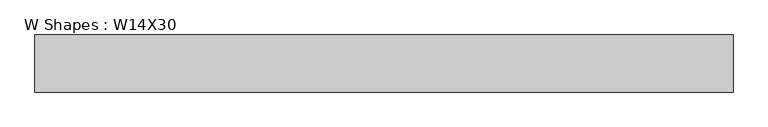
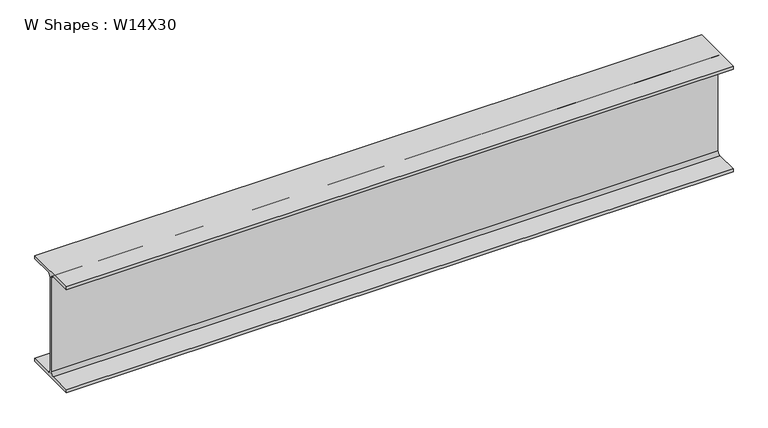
"""IFC4 building model written with IfcOpenShell, lengths in millimetres: beam geometry, W Shapes : W14X30."""

import ifcopenshell
import ifcopenshell.guid

model = None  # the IFC model being written
_history = None  # IfcOwnerHistory: only IFC2X3 demands one
_inside = {}  # id of a spatial element -> (the spatial element, [elements in it])
_under = {}  # id of a project, library or spatial element -> (it, [spatial elements below it])
_declared = {}  # id of a project -> (the project, [libraries it declares])
_typed = {}  # id of a type object -> (the type object, [elements of that type])
_made_of = {}  # id of a material, layer set ... -> (it, [elements and type objects made of it])


def new_model(schema):
    """Start an empty IFC model of exactly this schema.

    Asked for "IFC4X3", IfcOpenShell would pick the latest addendum, in which some entities
    have other attributes; the version numbers below select the first issue.
    IFC2X3 requires an IfcOwnerHistory on every rooted entity: one is made here for all.
    """
    global model, _history
    if schema == "IFC4X3":
        model = ifcopenshell.file(schema_version=(4, 3, 0, 0))
    else:
        model = ifcopenshell.file(schema=schema)
    _inside.clear()
    _under.clear()
    _declared.clear()
    _typed.clear()
    _made_of.clear()
    _history = None
    if model.schema == "IFC2X3":
        org = make("IfcOrganization", Name="unknown")
        user = make(
            "IfcPersonAndOrganization",
            ThePerson=make("IfcPerson", FamilyName="unknown"),
            TheOrganization=org,
        )
        app = make(
            "IfcApplication",
            ApplicationDeveloper=org,
            Version="unknown",
            ApplicationFullName="unknown",
            ApplicationIdentifier="unknown",
        )
        _history = make(
            "IfcOwnerHistory",
            OwningUser=user,
            OwningApplication=app,
            ChangeAction="ADDED",
            CreationDate=0,
        )
    return model


def make(cls, **values):
    """One entity of the class cls with the attributes given. An attribute that is None is left unset."""
    return model.create_entity(
        cls, **{name: value for name, value in values.items() if value is not None}
    )


def rooted(cls, **values):
    """An entity with a GlobalId (a new one), such as an element, a storey or a relation."""
    return make(cls, GlobalId=ifcopenshell.guid.new(), OwnerHistory=_history, **values)


def si_unit(unit_type, name, prefix=None):
    """IfcSIUnit, for example si_unit("LENGTHUNIT", "METRE", prefix="MILLI")."""
    return make("IfcSIUnit", UnitType=unit_type, Prefix=prefix, Name=name)


def assignment(units):
    """IfcUnitAssignment: the units of a project."""
    return None if units is None else make("IfcUnitAssignment", Units=units)


def point(xyz):
    """IfcCartesianPoint."""
    return None if xyz is None else make("IfcCartesianPoint", Coordinates=xyz)


def direction(xyz):
    """IfcDirection."""
    return None if xyz is None else make("IfcDirection", DirectionRatios=xyz)


def frame(location, z_axis=None, x_axis=None):
    """IfcAxis2Placement3D, a coordinate frame: its origin and axes. An axis left out is left unset."""
    return make(
        "IfcAxis2Placement3D",
        Location=point(location),
        Axis=direction(z_axis),
        RefDirection=direction(x_axis),
    )


def frame_2d(location, x_axis=None):
    """IfcAxis2Placement2D, a coordinate frame in the plane: its origin and x axis."""
    return make(
        "IfcAxis2Placement2D", Location=point(location), RefDirection=direction(x_axis)
    )


def origin():
    """The frame at (0, 0, 0) with its axes left unset."""
    return frame((0.0, 0.0, 0.0))


def place(relative_to, where):
    """IfcLocalPlacement: puts the frame where relative to a parent placement (None: the world)."""
    return make(
        "IfcLocalPlacement", PlacementRelTo=relative_to, RelativePlacement=where
    )


def context(
    kind, dimensions, precision=None, world=None, true_north=None, identifier=None
):
    """IfcGeometricRepresentationContext, for example the 3D "Model" context."""
    return make(
        "IfcGeometricRepresentationContext",
        ContextIdentifier=identifier,
        ContextType=kind,
        CoordinateSpaceDimension=dimensions,
        Precision=precision,
        WorldCoordinateSystem=world,
        TrueNorth=true_north,
    )


def project(units=None, contexts=None):
    """IfcProject with its units and contexts."""
    return rooted(
        "IfcProject",
        Name="project",
        RepresentationContexts=contexts,
        UnitsInContext=assignment(units),
    )


def spatial(cls, under=None, at=None, **own):
    """A site, building, storey or space (cls), placed at a placement, below another one or the project."""
    s = rooted(cls, ObjectPlacement=at, **own)
    if under is not None:
        _under.setdefault(under.id(), (under, []))[1].append(s)
    return s


def polyline(points):
    """IfcPolyline through the points."""
    return make("IfcPolyline", Points=[point(p) for p in points])


def circle_curve(where, radius):
    """IfcCircle in the frame where."""
    return make("IfcCircle", Position=where, Radius=radius)


def trimmed(basis, trim1, trim2, sense, master):
    """IfcTrimmedCurve: the piece of a basis curve between two trims."""
    return make(
        "IfcTrimmedCurve",
        BasisCurve=basis,
        Trim1=trim1,
        Trim2=trim2,
        SenseAgreement=sense,
        MasterRepresentation=master,
    )


def segment(curve, same_sense, transition):
    """IfcCompositeCurveSegment."""
    return make(
        "IfcCompositeCurveSegment",
        Transition=transition,
        SameSense=same_sense,
        ParentCurve=curve,
    )


def composite_curve(segments, self_intersect=None):
    """IfcCompositeCurve: segments joined end to end."""
    return make("IfcCompositeCurve", Segments=segments, SelfIntersect=self_intersect)


def outline(outer, holes=None, kind="AREA"):
    """IfcArbitraryClosedProfileDef: a profile drawn as a closed curve; with holes, ...WithVoids."""
    if holes is None:
        return make("IfcArbitraryClosedProfileDef", ProfileType=kind, OuterCurve=outer)
    return make(
        "IfcArbitraryProfileDefWithVoids",
        ProfileType=kind,
        OuterCurve=outer,
        InnerCurves=holes,
    )


def extrude(swept, where, along, depth):
    """IfcExtrudedAreaSolid: the profile swept, set in the frame where, extruded along a direction by depth."""
    return make(
        "IfcExtrudedAreaSolid",
        SweptArea=swept,
        Position=where,
        ExtrudedDirection=direction(along),
        Depth=depth,
    )


def shape(context_of_items, identifier, shape_type, items):
    """IfcShapeRepresentation: the items that make up one representation, for example the "Body"."""
    return make(
        "IfcShapeRepresentation",
        ContextOfItems=context_of_items,
        RepresentationIdentifier=identifier,
        RepresentationType=shape_type,
        Items=items,
    )


def source(mapping_origin, context_of_items, identifier, shape_type, items):
    """IfcRepresentationMap: a shape defined once, which mapped items show again and again."""
    return make(
        "IfcRepresentationMap",
        MappingOrigin=mapping_origin,
        MappedRepresentation=shape(context_of_items, identifier, shape_type, items),
    )


def transform(
    local_origin,
    x_axis=None,
    y_axis=None,
    z_axis=None,
    scale=None,
    scale2=None,
    scale3=None,
    uniform=True,
):
    """IfcCartesianTransformationOperator3D, or its non-uniform kind. x_axis, y_axis, z_axis: its Axis1, 2, 3."""
    if uniform:
        return make(
            "IfcCartesianTransformationOperator3D",
            Axis1=direction(x_axis),
            Axis2=direction(y_axis),
            LocalOrigin=point(local_origin),
            Scale=scale,
            Axis3=direction(z_axis),
        )
    return make(
        "IfcCartesianTransformationOperator3DnonUniform",
        Axis1=direction(x_axis),
        Axis2=direction(y_axis),
        LocalOrigin=point(local_origin),
        Scale=scale,
        Axis3=direction(z_axis),
        Scale2=scale2,
        Scale3=scale3,
    )


def mapped(mapping_source, mapping_target):
    """IfcMappedItem: shows the shape of a source again, moved by a transform."""
    return make(
        "IfcMappedItem", MappingSource=mapping_source, MappingTarget=mapping_target
    )


def made_of(thing, what):
    """Note that an element or type object is made of a material, layer set ...; save() writes the relation."""
    if what is not None:
        _made_of.setdefault(what.id(), (what, []))[1].append(thing)
    return thing


def element(
    cls,
    number,
    at=None,
    inside=None,
    cuts=None,
    type_object=None,
    material=None,
    context=None,
    identifier="Body",
    shape_type=None,
    held_by="IfcProductDefinitionShape",
    body=None,
    shapes=None,
    **own,
):
    """One element of the class cls, such as IfcWall. Its Tag is "e" and its number.

    at: its placement. inside: the storey or other place that contains it. cuts: it is an
    opening in that element (IfcRelVoidsElement). A single representation is given by context,
    identifier, shape_type and body (its items); several are given by shapes. held_by: the class
    of the entity that holds the representations. save() writes the other relations.
    """
    e = rooted(cls, Tag="e%d" % number, ObjectPlacement=at, **own)
    if body is not None:
        shapes = [shape(context, identifier, shape_type, body)]
    if shapes is not None:
        e.Representation = make(held_by, Representations=shapes)
    if inside is not None:
        _inside.setdefault(inside.id(), (inside, []))[1].append(e)
    if cuts is not None:
        rooted(
            "IfcRelVoidsElement", RelatingBuildingElement=cuts, RelatedOpeningElement=e
        )
    if type_object is not None:
        _typed.setdefault(type_object.id(), (type_object, []))[1].append(e)
    return made_of(e, material)


def aggregate(whole, parts):
    """IfcRelAggregates: a whole, such as a stair, and the parts it consists of."""
    return rooted("IfcRelAggregates", RelatingObject=whole, RelatedObjects=parts)


def save(model, path):
    """Write the relations noted so far, then the file.

    IfcRelAggregates (storeys below a building ...), IfcRelContainedInSpatialStructure (elements
    in a storey), IfcRelDefinesByType, IfcRelAssociatesMaterial and IfcRelDeclares: one each for
    every whole, place, type object, material and project.
    """
    for whole, parts in _under.values():
        aggregate(whole, parts)
    for where, things in _inside.values():
        rooted(
            "IfcRelContainedInSpatialStructure",
            RelatedElements=things,
            RelatingStructure=where,
        )
    for kind, things in _typed.values():
        rooted("IfcRelDefinesByType", RelatedObjects=things, RelatingType=kind)
    for what, things in _made_of.values():
        rooted("IfcRelAssociatesMaterial", RelatedObjects=things, RelatingMaterial=what)
    for by, libraries in _declared.values():
        rooted("IfcRelDeclares", RelatingContext=by, RelatedDefinitions=libraries)
    model.write(path)


def w_shapes_w14x30_97968d29(model_context):
    return source(origin(), model_context, "Body", "SweptSolid", [
        extrude(outline(composite_curve([segment(polyline([(85.471, -165.481), (85.471, -175.26), (-85.471, -175.26), (-85.471, -165.481), (-13.589, -165.481)]), True, "CONTINUOUS"), segment(trimmed(circle_curve(frame_2d((-13.589, -155.321)), 10.16), [point((-13.589, -165.481))], [point((-3.429, -155.321))], True, "CARTESIAN"), True, "CONTINUOUS"), segment(polyline([(-3.429, -155.321), (-3.429, 155.321)]), True, "CONTINUOUS"), segment(trimmed(circle_curve(frame_2d((-13.589, 155.321)), 10.16), [point((-3.429, 155.321))], [point((-13.589, 165.481))], True, "CARTESIAN"), True, "CONTINUOUS"), segment(polyline([(-13.589, 165.481), (-85.471, 165.481), (-85.471, 175.26), (85.471, 175.26), (85.471, 165.481), (13.589, 165.481)]), True, "CONTINUOUS"), segment(trimmed(circle_curve(frame_2d((13.589, 155.321)), 10.16), [point((13.589, 165.481))], [point((3.429, 155.321))], True, "CARTESIAN"), True, "CONTINUOUS"), segment(polyline([(3.429, 155.321), (3.429, -155.321)]), True, "CONTINUOUS"), segment(trimmed(circle_curve(frame_2d((13.589, -155.321)), 10.16), [point((3.429, -155.321))], [point((13.589, -165.481))], True, "CARTESIAN"), True, "CONTINUOUS"), segment(polyline([(13.589, -165.481), (85.471, -165.481)]), True, "CONTINUOUS")], self_intersect=False)), frame((-1045.1225149, 0.0, 0.0), z_axis=(1.0, 0.0, 0.0), x_axis=(0.0, 1.0, 0.0)), (0.0, 0.0, 1.0), 2090.2450297),
    ])


if __name__ == "__main__":
    model = new_model("IFC4")
    model_context = context("Model", 3, world=origin())
    ifc_project = project(units=[si_unit("LENGTHUNIT", "METRE", prefix="MILLI")], contexts=[model_context])
    site = spatial("IfcSite", under=ifc_project)
    building = spatial("IfcBuilding", under=site)
    placement = place(None, origin())
    w_shapes_w14x30_shape = w_shapes_w14x30_97968d29(model_context)
    element("IfcBeam", 1, ObjectType="W Shapes : W14X30", at=placement, inside=building, context=model_context, shape_type="MappedRepresentation", body=[
        mapped(w_shapes_w14x30_shape, transform((0.0, 0.0, 0.0), x_axis=(1.0, 0.0, 0.0), y_axis=(0.0, 1.0, 0.0), z_axis=(0.0, 0.0, 1.0))),
    ])
    save(model, "model.ifc")
